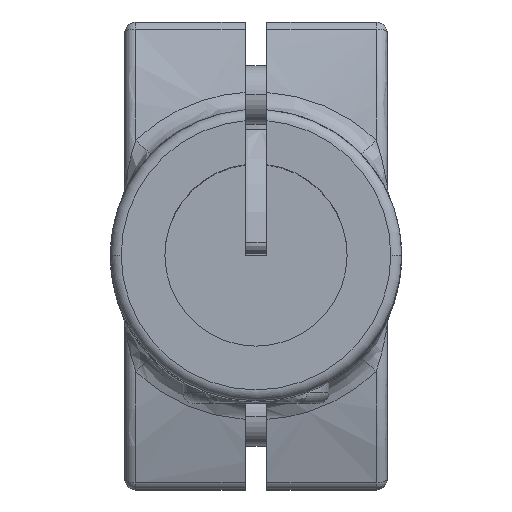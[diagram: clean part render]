
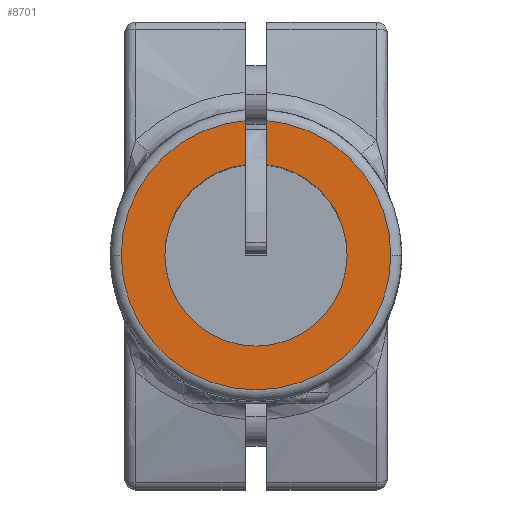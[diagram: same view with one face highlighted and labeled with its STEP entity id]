
A CAD part, top view. The second image highlights one B-rep face of the part: STEP entity #8701.
In plain terms, the highlighted planar face has unit normal (0, 0, 1) as drawn and (0, 0, -1) by its records, which use the part's own axes.
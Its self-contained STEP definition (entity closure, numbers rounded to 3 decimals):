
#116 = VECTOR ( 'NONE', #10653, 1000. ) ;
#140 = CIRCLE ( 'NONE', #14832, 12.5 ) ;
#190 = CARTESIAN_POINT ( 'NONE',  ( 0., 0., 0. ) ) ;
#358 = AXIS2_PLACEMENT_3D ( 'NONE', #14346, #9150, #15744 ) ;
#867 = DIRECTION ( 'NONE',  ( -1., 0., 0. ) ) ;
#884 = AXIS2_PLACEMENT_3D ( 'NONE', #190, #2699, #9381 ) ;
#886 = AXIS2_PLACEMENT_3D ( 'NONE', #16228, #16306, #2504 ) ;
#921 = DIRECTION ( 'NONE',  ( 0., 0., 1. ) ) ;
#1431 = CARTESIAN_POINT ( 'NONE',  ( -1.5, 0., 0. ) ) ;
#1789 = LINE ( 'NONE', #5792, #9644 ) ;
#1935 = ORIENTED_EDGE ( 'NONE', *, *, #3806, .T. ) ;
#2364 = EDGE_CURVE ( 'NONE', #11691, #11554, #1789, .T. ) ;
#2504 = DIRECTION ( 'NONE',  ( 1., 0., 0. ) ) ;
#2685 = VERTEX_POINT ( 'NONE', #2769 ) ;
#2699 = DIRECTION ( 'NONE',  ( 0., 0., -1. ) ) ;
#2769 = CARTESIAN_POINT ( 'NONE',  ( -1.5, 12.41, 0. ) ) ;
#3115 = DIRECTION ( 'NONE',  ( 0., -1., 0. ) ) ;
#3425 = CARTESIAN_POINT ( 'NONE',  ( 0., 0., 0. ) ) ;
#3471 = EDGE_CURVE ( 'NONE', #2685, #15514, #14234, .T. ) ;
#3624 = EDGE_LOOP ( 'NONE', ( #7603, #15447, #9557, #1935, #7715, #4507, #7135, #6663 ) ) ;
#3806 = EDGE_CURVE ( 'NONE', #12091, #11298, #13176, .T. ) ;
#4116 = FACE_OUTER_BOUND ( 'NONE', #3624, .T. ) ;
#4382 = VERTEX_POINT ( 'NONE', #5144 ) ;
#4438 = CARTESIAN_POINT ( 'NONE',  ( 12.5, 0., 0. ) ) ;
#4507 = ORIENTED_EDGE ( 'NONE', *, *, #3471, .T. ) ;
#4836 = EDGE_CURVE ( 'NONE', #11691, #4382, #7836, .T. ) ;
#5144 = CARTESIAN_POINT ( 'NONE',  ( 18.5, 0., 0. ) ) ;
#5747 = CARTESIAN_POINT ( 'NONE',  ( 1.5, 18.439, 0. ) ) ;
#5792 = CARTESIAN_POINT ( 'NONE',  ( 1.5, 0., 0. ) ) ;
#6301 = AXIS2_PLACEMENT_3D ( 'NONE', #6771, #11870, #7951 ) ;
#6384 = CIRCLE ( 'NONE', #15730, 12.5 ) ;
#6663 = ORIENTED_EDGE ( 'NONE', *, *, #11262, .T. ) ;
#6771 = CARTESIAN_POINT ( 'NONE',  ( 0., 0., 0. ) ) ;
#7084 = CARTESIAN_POINT ( 'NONE',  ( -12.5, 0., 0. ) ) ;
#7135 = ORIENTED_EDGE ( 'NONE', *, *, #15774, .T. ) ;
#7281 = AXIS2_PLACEMENT_3D ( 'NONE', #9737, #14831, #867 ) ;
#7603 = ORIENTED_EDGE ( 'NONE', *, *, #2364, .F. ) ;
#7715 = ORIENTED_EDGE ( 'NONE', *, *, #9517, .F. ) ;
#7836 = CIRCLE ( 'NONE', #884, 18.5 ) ;
#7951 = DIRECTION ( 'NONE',  ( 1., 0., 0. ) ) ;
#7981 = CARTESIAN_POINT ( 'NONE',  ( -18.5, 0., 0. ) ) ;
#8701 = ADVANCED_FACE ( 'NONE', ( #4116 ), #11669, .F. ) ;
#9150 = DIRECTION ( 'NONE',  ( 0., 0., 1. ) ) ;
#9381 = DIRECTION ( 'NONE',  ( 1., 0., 0. ) ) ;
#9517 = EDGE_CURVE ( 'NONE', #2685, #11298, #11827, .T. ) ;
#9557 = ORIENTED_EDGE ( 'NONE', *, *, #14718, .T. ) ;
#9644 = VECTOR ( 'NONE', #3115, 1000. ) ;
#9737 = CARTESIAN_POINT ( 'NONE',  ( 0., 0., 0. ) ) ;
#10314 = DIRECTION ( 'NONE',  ( -1., 0., 0. ) ) ;
#10653 = DIRECTION ( 'NONE',  ( 0., 1., 0. ) ) ;
#11124 = CIRCLE ( 'NONE', #6301, 18.5 ) ;
#11146 = DIRECTION ( 'NONE',  ( -1., 0., 0. ) ) ;
#11262 = EDGE_CURVE ( 'NONE', #15735, #11554, #6384, .T. ) ;
#11298 = VERTEX_POINT ( 'NONE', #13405 ) ;
#11467 = CARTESIAN_POINT ( 'NONE',  ( 1.5, 12.41, 0. ) ) ;
#11554 = VERTEX_POINT ( 'NONE', #11467 ) ;
#11669 = PLANE ( 'NONE',  #358 ) ;
#11691 = VERTEX_POINT ( 'NONE', #5747 ) ;
#11827 = LINE ( 'NONE', #1431, #116 ) ;
#11870 = DIRECTION ( 'NONE',  ( 0., 0., -1. ) ) ;
#12091 = VERTEX_POINT ( 'NONE', #7981 ) ;
#12976 = DIRECTION ( 'NONE',  ( 0., 0., 1. ) ) ;
#13176 = CIRCLE ( 'NONE', #886, 18.5 ) ;
#13405 = CARTESIAN_POINT ( 'NONE',  ( -1.5, 18.439, 0. ) ) ;
#14234 = CIRCLE ( 'NONE', #7281, 12.5 ) ;
#14346 = CARTESIAN_POINT ( 'NONE',  ( 0., 0., 0. ) ) ;
#14718 = EDGE_CURVE ( 'NONE', #4382, #12091, #11124, .T. ) ;
#14831 = DIRECTION ( 'NONE',  ( 0., 0., 1. ) ) ;
#14832 = AXIS2_PLACEMENT_3D ( 'NONE', #3425, #921, #11146 ) ;
#15447 = ORIENTED_EDGE ( 'NONE', *, *, #4836, .T. ) ;
#15478 = CARTESIAN_POINT ( 'NONE',  ( 0., 0., 0. ) ) ;
#15514 = VERTEX_POINT ( 'NONE', #7084 ) ;
#15730 = AXIS2_PLACEMENT_3D ( 'NONE', #15478, #12976, #10314 ) ;
#15735 = VERTEX_POINT ( 'NONE', #4438 ) ;
#15744 = DIRECTION ( 'NONE',  ( 1., 0., 0. ) ) ;
#15774 = EDGE_CURVE ( 'NONE', #15514, #15735, #140, .T. ) ;
#16228 = CARTESIAN_POINT ( 'NONE',  ( 0., 0., 0. ) ) ;
#16306 = DIRECTION ( 'NONE',  ( 0., 0., -1. ) ) ;
